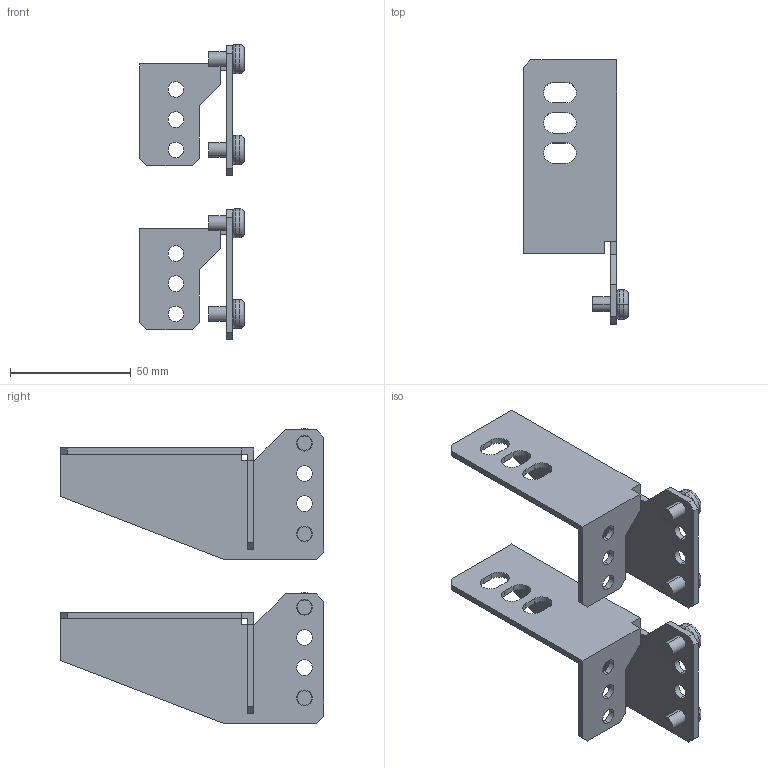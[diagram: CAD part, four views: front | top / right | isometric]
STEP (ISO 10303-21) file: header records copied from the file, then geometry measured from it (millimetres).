
FILE_DESCRIPTION (( 'STEP AP214' ), '1' );
FILE_NAME ('FO-00-BSB-IEK Êðîíøòåéí ñèñòåìû ñáîðíûõ øèí (2 øò.óïàê.).STEP', '2025-08-06T11:03:51', ( '' ), ( '' ), 'SwSTEP 2.0', 'SolidWorks 2023', '' );
FILE_SCHEMA (( 'AUTOMOTIVE_DESIGN' ));
Length unit declared in the file: millimetre
Products named in the file (4): Кронштейн системы сборных шин; Винт М6х10 IEK; FO-00-BSB-IEK Кронштейн системы сборных шин (2 шт.упак.)
Assembly tree (5 placements, depth 3):
  FO-00-BSB-IEK Кронштейн системы сборных шин (2 шт.упак.)
    Кронштейн системы сборных шин  x2
      Кронштейн системы сборных шин
      Винт М6х10 IEK
Bounding box: 43.3 x 109 x 121.83 mm (x, y, z)
Volume: 41102.4 mm3; surface area: 36503.6 mm2
Topology: 6 solids, 6 shells, 240 faces, 636 edges, 416 vertices
Faces by surface type: plane 118, cylinder 62, cone 44, torus 16
Entity records: 3009 total; most frequent: CARTESIAN_POINT 525, DIRECTION 513, ORIENTED_EDGE 486, EDGE_CURVE 243, AXIS2_PLACEMENT_3D 180, VERTEX_POINT 160, LINE 153, VECTOR 153
